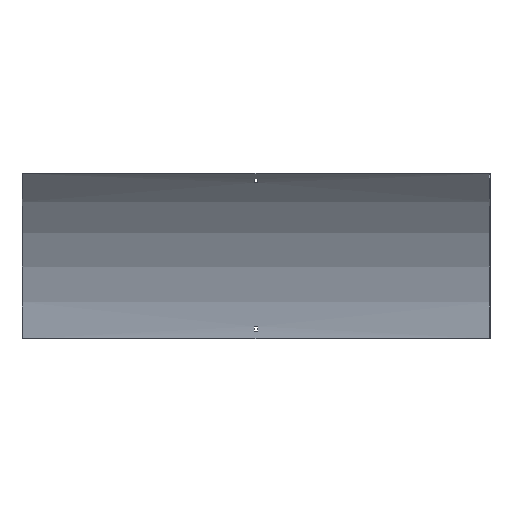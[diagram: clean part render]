
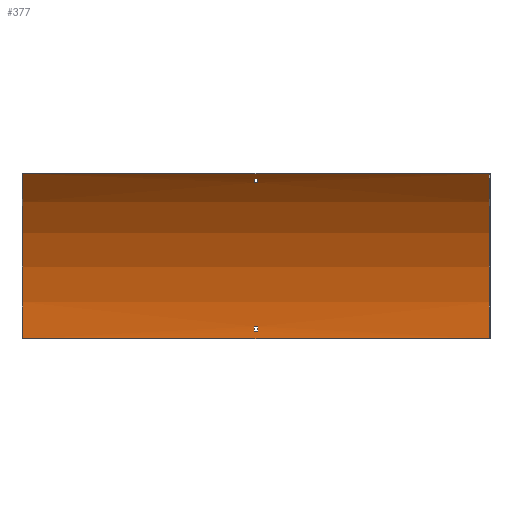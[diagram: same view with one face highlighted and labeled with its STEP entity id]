
A CAD part, front view. The second image highlights one B-rep face of the part: STEP entity #377.
In plain terms, the highlighted cylindrical face has radius 400 mm (diameter 800 mm), a partial arc.
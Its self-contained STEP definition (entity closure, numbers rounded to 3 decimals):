
#2 = DIRECTION ( 'NONE',  ( -1., 0., 0. ) ) ;
#4 = AXIS2_PLACEMENT_3D ( 'NONE', #435, #206, #335 ) ;
#13 = CARTESIAN_POINT ( 'NONE',  ( 401.5, -110.299, 274.23 ) ) ;
#18 = LINE ( 'NONE', #13, #242 ) ;
#22 = VERTEX_POINT ( 'NONE', #148 ) ;
#23 = CARTESIAN_POINT ( 'NONE',  ( 401.5, -2.052, 21. ) ) ;
#24 = CARTESIAN_POINT ( 'NONE',  ( 400., -1.5, 0. ) ) ;
#26 = LINE ( 'NONE', #313, #81 ) ;
#30 = CIRCLE ( 'NONE', #576, 400. ) ;
#34 = EDGE_CURVE ( 'NONE', #163, #344, #180, .T. ) ;
#45 = CARTESIAN_POINT ( 'NONE',  ( 3.25, -2.052, 21. ) ) ;
#54 = ORIENTED_EDGE ( 'NONE', *, *, #122, .T. ) ;
#56 = ORIENTED_EDGE ( 'NONE', *, *, #86, .T. ) ;
#59 = DIRECTION ( 'NONE',  ( 0., 0., 1. ) ) ;
#69 = DIRECTION ( 'NONE',  ( 0., 0., -1. ) ) ;
#70 = DIRECTION ( 'NONE',  ( 1., 0., 0. ) ) ;
#75 = ORIENTED_EDGE ( 'NONE', *, *, #230, .T. ) ;
#81 = VECTOR ( 'NONE', #483, 1000. ) ;
#83 = CARTESIAN_POINT ( 'NONE',  ( 3.25, -1.68, 12. ) ) ;
#86 = EDGE_CURVE ( 'NONE', #116, #195, #145, .T. ) ;
#94 = CARTESIAN_POINT ( 'NONE',  ( -3.25, -2.052, 21. ) ) ;
#96 = DIRECTION ( 'NONE',  ( 0., 0., -1. ) ) ;
#102 = EDGE_CURVE ( 'NONE', #123, #143, #106, .T. ) ;
#106 = CIRCLE ( 'NONE', #441, 400. ) ;
#116 = VERTEX_POINT ( 'NONE', #573 ) ;
#122 = EDGE_CURVE ( 'NONE', #22, #163, #213, .T. ) ;
#123 = VERTEX_POINT ( 'NONE', #94 ) ;
#124 = CARTESIAN_POINT ( 'NONE',  ( 401.5, -1.68, 12. ) ) ;
#125 = VERTEX_POINT ( 'NONE', #45 ) ;
#126 = DIRECTION ( 'NONE',  ( 1., 0., 0. ) ) ;
#143 = VERTEX_POINT ( 'NONE', #228 ) ;
#145 = LINE ( 'NONE', #561, #329 ) ;
#148 = CARTESIAN_POINT ( 'NONE',  ( 3.25, -110.299, 274.23 ) ) ;
#153 = VECTOR ( 'NONE', #328, 1000. ) ;
#156 = CIRCLE ( 'NONE', #198, 400. ) ;
#159 = ORIENTED_EDGE ( 'NONE', *, *, #588, .F. ) ;
#163 = VERTEX_POINT ( 'NONE', #419 ) ;
#167 = AXIS2_PLACEMENT_3D ( 'NONE', #461, #546, #96 ) ;
#176 = DIRECTION ( 'NONE',  ( 1., 0., 0. ) ) ;
#180 = LINE ( 'NONE', #564, #153 ) ;
#191 = CARTESIAN_POINT ( 'NONE',  ( -3.25, -104.198, 267.603 ) ) ;
#195 = VERTEX_POINT ( 'NONE', #549 ) ;
#198 = AXIS2_PLACEMENT_3D ( 'NONE', #391, #126, #69 ) ;
#206 = DIRECTION ( 'NONE',  ( 1., 0., 0. ) ) ;
#213 = CIRCLE ( 'NONE', #558, 400. ) ;
#216 = FACE_BOUND ( 'NONE', #467, .T. ) ;
#222 = CARTESIAN_POINT ( 'NONE',  ( -3.25, -110.299, 274.23 ) ) ;
#228 = CARTESIAN_POINT ( 'NONE',  ( -3.25, -1.68, 12. ) ) ;
#230 = EDGE_CURVE ( 'NONE', #433, #116, #428, .T. ) ;
#233 = VECTOR ( 'NONE', #176, 1000. ) ;
#237 = DIRECTION ( 'NONE',  ( -1., 0., 0. ) ) ;
#242 = VECTOR ( 'NONE', #70, 1000. ) ;
#247 = EDGE_CURVE ( 'NONE', #539, #22, #18, .T. ) ;
#249 = CARTESIAN_POINT ( 'NONE',  ( 3.25, -401.5, 0. ) ) ;
#250 = ORIENTED_EDGE ( 'NONE', *, *, #102, .F. ) ;
#251 = DIRECTION ( 'NONE',  ( -1., 0., 0. ) ) ;
#256 = CYLINDRICAL_SURFACE ( 'NONE', #553, 400. ) ;
#269 = DIRECTION ( 'NONE',  ( 0., 0., 1. ) ) ;
#276 = DIRECTION ( 'NONE',  ( 1., 0., 0. ) ) ;
#281 = DIRECTION ( 'NONE',  ( 0., 0., -1. ) ) ;
#291 = ORIENTED_EDGE ( 'NONE', *, *, #494, .F. ) ;
#313 = CARTESIAN_POINT ( 'NONE',  ( 400., -1.5, 0. ) ) ;
#320 = ORIENTED_EDGE ( 'NONE', *, *, #34, .T. ) ;
#324 = VERTEX_POINT ( 'NONE', #385 ) ;
#328 = DIRECTION ( 'NONE',  ( -1., 0., 0. ) ) ;
#329 = VECTOR ( 'NONE', #2, 1000. ) ;
#333 = CARTESIAN_POINT ( 'NONE',  ( -3.25, -401.5, 0. ) ) ;
#335 = DIRECTION ( 'NONE',  ( 0., 0., -1. ) ) ;
#344 = VERTEX_POINT ( 'NONE', #191 ) ;
#349 = DIRECTION ( 'NONE',  ( 0., 0., 1. ) ) ;
#357 = ORIENTED_EDGE ( 'NONE', *, *, #594, .T. ) ;
#358 = CIRCLE ( 'NONE', #167, 400. ) ;
#362 = EDGE_LOOP ( 'NONE', ( #250, #159, #444, #514 ) ) ;
#377 = ADVANCED_FACE ( 'NONE', ( #583, #400, #216 ), #256, .F. ) ;
#378 = VECTOR ( 'NONE', #251, 1000. ) ;
#385 = CARTESIAN_POINT ( 'NONE',  ( -400., -1.5, 0. ) ) ;
#389 = DIRECTION ( 'NONE',  ( -1., 0., 0. ) ) ;
#391 = CARTESIAN_POINT ( 'NONE',  ( 3.25, -401.5, 0. ) ) ;
#400 = FACE_OUTER_BOUND ( 'NONE', #533, .T. ) ;
#413 = EDGE_CURVE ( 'NONE', #143, #448, #596, .T. ) ;
#419 = CARTESIAN_POINT ( 'NONE',  ( 3.25, -104.198, 267.603 ) ) ;
#428 = CIRCLE ( 'NONE', #4, 400. ) ;
#433 = VERTEX_POINT ( 'NONE', #24 ) ;
#435 = CARTESIAN_POINT ( 'NONE',  ( 400., -401.5, 0. ) ) ;
#441 = AXIS2_PLACEMENT_3D ( 'NONE', #333, #237, #59 ) ;
#443 = CARTESIAN_POINT ( 'NONE',  ( 401.5, -401.5, 0. ) ) ;
#444 = ORIENTED_EDGE ( 'NONE', *, *, #560, .F. ) ;
#448 = VERTEX_POINT ( 'NONE', #83 ) ;
#461 = CARTESIAN_POINT ( 'NONE',  ( -3.25, -401.5, 0. ) ) ;
#467 = EDGE_LOOP ( 'NONE', ( #320, #357, #501, #54 ) ) ;
#478 = LINE ( 'NONE', #23, #378 ) ;
#483 = DIRECTION ( 'NONE',  ( -1., 0., 0. ) ) ;
#494 = EDGE_CURVE ( 'NONE', #324, #195, #30, .T. ) ;
#501 = ORIENTED_EDGE ( 'NONE', *, *, #247, .T. ) ;
#514 = ORIENTED_EDGE ( 'NONE', *, *, #413, .F. ) ;
#533 = EDGE_LOOP ( 'NONE', ( #291, #566, #75, #56 ) ) ;
#539 = VERTEX_POINT ( 'NONE', #222 ) ;
#546 = DIRECTION ( 'NONE',  ( 1., 0., 0. ) ) ;
#549 = CARTESIAN_POINT ( 'NONE',  ( -400., -118.657, 282.843 ) ) ;
#552 = CARTESIAN_POINT ( 'NONE',  ( -400., -401.5, 0. ) ) ;
#553 = AXIS2_PLACEMENT_3D ( 'NONE', #443, #591, #349 ) ;
#555 = EDGE_CURVE ( 'NONE', #433, #324, #26, .T. ) ;
#558 = AXIS2_PLACEMENT_3D ( 'NONE', #249, #389, #269 ) ;
#560 = EDGE_CURVE ( 'NONE', #448, #125, #156, .T. ) ;
#561 = CARTESIAN_POINT ( 'NONE',  ( 400., -118.657, 282.843 ) ) ;
#564 = CARTESIAN_POINT ( 'NONE',  ( 401.5, -104.198, 267.603 ) ) ;
#566 = ORIENTED_EDGE ( 'NONE', *, *, #555, .F. ) ;
#573 = CARTESIAN_POINT ( 'NONE',  ( 400., -118.657, 282.843 ) ) ;
#576 = AXIS2_PLACEMENT_3D ( 'NONE', #552, #276, #281 ) ;
#583 = FACE_BOUND ( 'NONE', #362, .T. ) ;
#588 = EDGE_CURVE ( 'NONE', #125, #123, #478, .T. ) ;
#591 = DIRECTION ( 'NONE',  ( -1., 0., 0. ) ) ;
#594 = EDGE_CURVE ( 'NONE', #344, #539, #358, .T. ) ;
#596 = LINE ( 'NONE', #124, #233 ) ;
